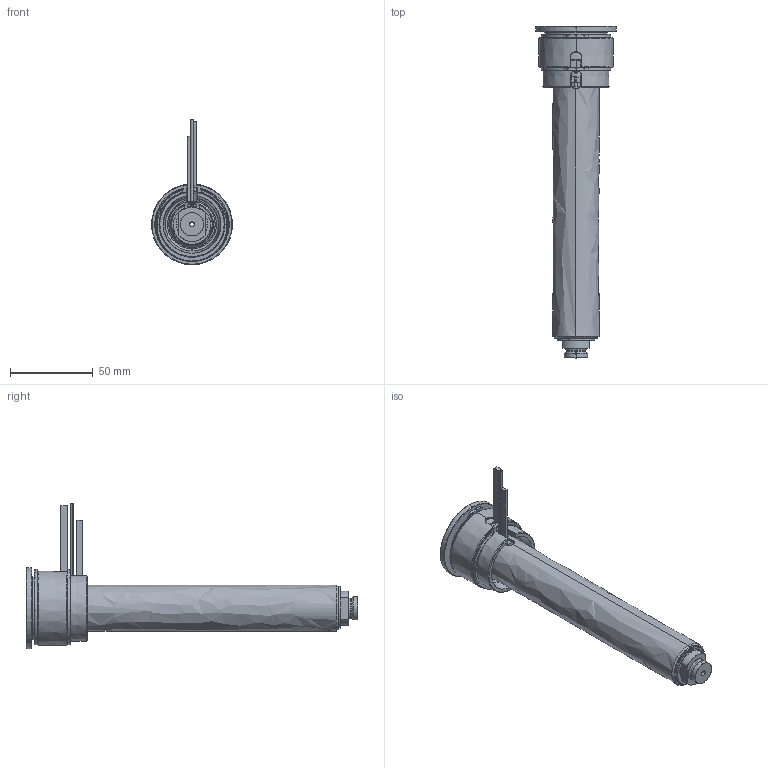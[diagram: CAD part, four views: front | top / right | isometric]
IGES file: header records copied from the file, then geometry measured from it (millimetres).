
Start section: SolidWorks IGES file using analytic representation for surfaces
Global section: file name: C:\Documents and Settings\ws-20\Desktop\TEM\UGBE4504-S-A-3 [Ød-2.5 P-0 ØC-10].IGS; native system: SolidWorks 2012; preprocessor: SolidWorks 2012; author: ws-20; date: 120412.154912; units: millimetre
Bounding box: 49 x 201 x 88.15 mm (x, y, z)
Surface area: 70152.9 mm2 (no closed solid volume)
Topology: 0 solids, 0 shells, 165 faces, 3139 edges, 3139 vertices
Faces by surface type: revolution 106, bspline 59
